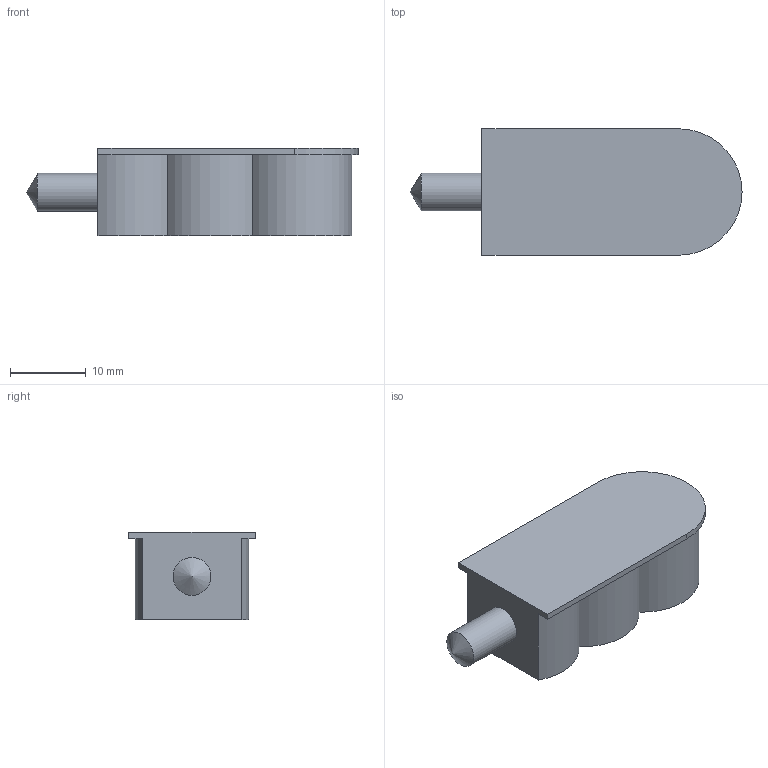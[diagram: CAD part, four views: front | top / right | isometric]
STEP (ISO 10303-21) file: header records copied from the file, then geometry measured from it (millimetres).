
FILE_DESCRIPTION(/* description */ (''),/* implementation_level */ '2;1');
FILE_NAME(/* name */ 'C:\Users\matthiask.LAMELLONET\Desktop\Cabineo_Bund_flaechenbuendig_Variante_1-2_Gegenbohrung_D5x8mm.stp',/* time_stamp */ '2021-07-13T14:47:33+02:00',/* author */ ('matthiask'),/* organization */ (''),/* preprocessor_version */ 'ST-DEVELOPER v18',/* originating_system */ 'Autodesk Inventor 2020',/* authorisation */ '');
FILE_SCHEMA (('AUTOMOTIVE_DESIGN { 1 0 10303 214 3 1 1 }'));
Length unit declared in the file: millimetre
Products named in the file (3): Cabineo Bund flächenbündig Variante 1-2_Gegenbohrung D5x8; Cabineo Bund flächenbündig Variante 1-2; Bohrung D8x13.5
Assembly tree (2 placements, depth 2):
  Cabineo Bund flächenbündig Variante 1-2_Gegenbohrung D5x8
    Cabineo Bund flächenbündig Variante 1-2
    Bohrung D8x13.5
Bounding box: 43.85 x 16.7 x 11.5 mm (x, y, z)
Volume: 5327.5 mm3; surface area: 2346.1 mm2
Topology: 2 solids, 2 shells, 15 faces, 37 edges, 25 vertices
Faces by surface type: plane 7, cylinder 7, cone 1
Full cylindrical faces by diameter (mm): 5 x1
Entity records: 573 total; most frequent: DIRECTION 92, CARTESIAN_POINT 81, ORIENTED_EDGE 72, EDGE_CURVE 36, AXIS2_PLACEMENT_3D 36, VERTEX_POINT 25, LINE 20, VECTOR 20
